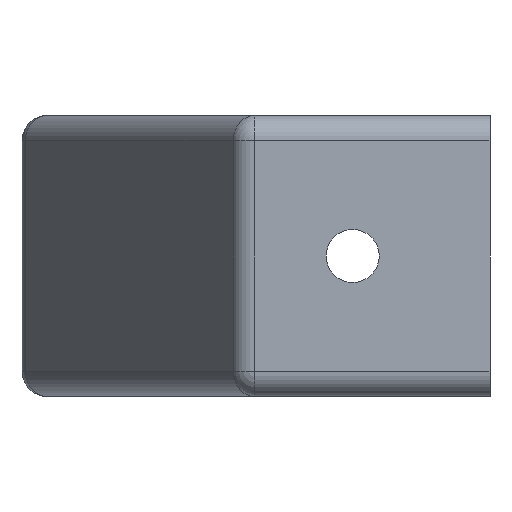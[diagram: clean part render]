
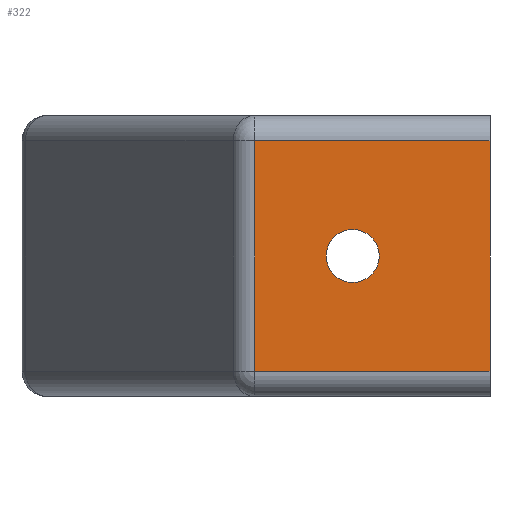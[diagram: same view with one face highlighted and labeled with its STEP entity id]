
A CAD part, front view. The second image highlights one B-rep face of the part: STEP entity #322.
In plain terms, the highlighted planar face has unit normal (0, -1, 0).
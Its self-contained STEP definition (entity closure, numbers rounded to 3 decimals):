
#7 = VECTOR ( 'NONE', #252, 1000. ) ;
#64 = CARTESIAN_POINT ( 'NONE',  ( 37.297, 0., 18.5 ) ) ;
#65 = VERTEX_POINT ( 'NONE', #183 ) ;
#82 = CARTESIAN_POINT ( 'NONE',  ( 75., 0., -18.5 ) ) ;
#119 = LINE ( 'NONE', #1011, #716 ) ;
#120 = CIRCLE ( 'NONE', #917, 4.25 ) ;
#130 = CARTESIAN_POINT ( 'NONE',  ( 35., 0., 22.5 ) ) ;
#149 = VERTEX_POINT ( 'NONE', #82 ) ;
#154 = DIRECTION ( 'NONE',  ( 0., 1., 0. ) ) ;
#162 = EDGE_CURVE ( 'NONE', #65, #149, #468, .T. ) ;
#172 = CARTESIAN_POINT ( 'NONE',  ( 37.297, 0., 22.5 ) ) ;
#180 = DIRECTION ( 'NONE',  ( 0., 0., 1. ) ) ;
#183 = CARTESIAN_POINT ( 'NONE',  ( 75., 0., 18.5 ) ) ;
#210 = ORIENTED_EDGE ( 'NONE', *, *, #490, .T. ) ;
#252 = DIRECTION ( 'NONE',  ( 1., 0., 0. ) ) ;
#253 = DIRECTION ( 'NONE',  ( 0., 1., 0. ) ) ;
#322 = ADVANCED_FACE ( 'NONE', ( #1531, #1379 ), #906, .F. ) ;
#327 = DIRECTION ( 'NONE',  ( 0., 0., -1. ) ) ;
#337 = VECTOR ( 'NONE', #710, 1000. ) ;
#349 = VERTEX_POINT ( 'NONE', #701 ) ;
#383 = ORIENTED_EDGE ( 'NONE', *, *, #451, .T. ) ;
#388 = DIRECTION ( 'NONE',  ( 0., 0., 1. ) ) ;
#431 = LINE ( 'NONE', #172, #337 ) ;
#451 = EDGE_CURVE ( 'NONE', #349, #349, #120, .T. ) ;
#463 = EDGE_CURVE ( 'NONE', #471, #903, #431, .T. ) ;
#468 = LINE ( 'NONE', #1350, #1515 ) ;
#471 = VERTEX_POINT ( 'NONE', #64 ) ;
#490 = EDGE_CURVE ( 'NONE', #65, #471, #119, .T. ) ;
#496 = LINE ( 'NONE', #745, #7 ) ;
#539 = ORIENTED_EDGE ( 'NONE', *, *, #162, .F. ) ;
#550 = ORIENTED_EDGE ( 'NONE', *, *, #463, .T. ) ;
#701 = CARTESIAN_POINT ( 'NONE',  ( 53., 0., 4.25 ) ) ;
#702 = CARTESIAN_POINT ( 'NONE',  ( 53., 0., 0. ) ) ;
#710 = DIRECTION ( 'NONE',  ( 0., 0., -1. ) ) ;
#716 = VECTOR ( 'NONE', #1003, 1000. ) ;
#745 = CARTESIAN_POINT ( 'NONE',  ( 35., 0., -18.5 ) ) ;
#853 = AXIS2_PLACEMENT_3D ( 'NONE', #130, #253, #388 ) ;
#903 = VERTEX_POINT ( 'NONE', #1605 ) ;
#906 = PLANE ( 'NONE',  #853 ) ;
#917 = AXIS2_PLACEMENT_3D ( 'NONE', #702, #154, #180 ) ;
#964 = EDGE_LOOP ( 'NONE', ( #550, #1046, #539, #210 ) ) ;
#1003 = DIRECTION ( 'NONE',  ( -1., 0., 0. ) ) ;
#1011 = CARTESIAN_POINT ( 'NONE',  ( 35., 0., 18.5 ) ) ;
#1046 = ORIENTED_EDGE ( 'NONE', *, *, #1417, .T. ) ;
#1350 = CARTESIAN_POINT ( 'NONE',  ( 75., 0., 22.5 ) ) ;
#1379 = FACE_OUTER_BOUND ( 'NONE', #964, .T. ) ;
#1417 = EDGE_CURVE ( 'NONE', #903, #149, #496, .T. ) ;
#1515 = VECTOR ( 'NONE', #327, 1000. ) ;
#1531 = FACE_BOUND ( 'NONE', #1606, .T. ) ;
#1605 = CARTESIAN_POINT ( 'NONE',  ( 37.297, 0., -18.5 ) ) ;
#1606 = EDGE_LOOP ( 'NONE', ( #383 ) ) ;
